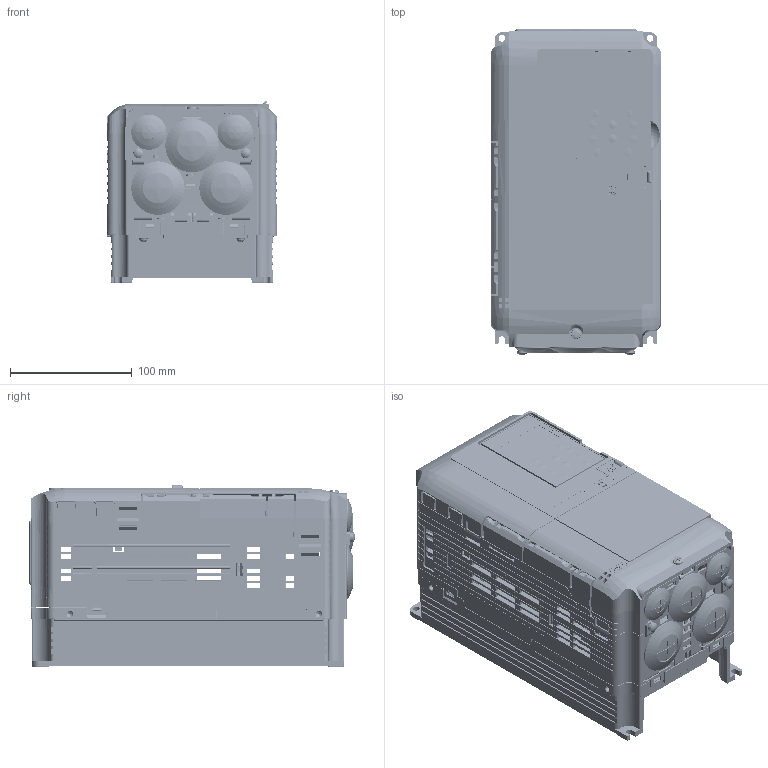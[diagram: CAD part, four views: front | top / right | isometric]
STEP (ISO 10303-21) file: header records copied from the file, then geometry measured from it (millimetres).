
FILE_DESCRIPTION((''),'2;1');
FILE_NAME('71616-AA4A0005FAA_ASM','2010-02-19T',('jc'),('YASKAWA ELECTRIC CORCORATION'),'PRO/ENGINEER BY PARAMETRIC TECHNOLOGY CORPORATION, 2008490','PRO/ENGINEER BY PARAMETRIC TECHNOLOGY CORPORATION, 2008490','');
FILE_SCHEMA(('CONFIG_CONTROL_DESIGN'));
Length unit declared in the file: millimetre
Products named in the file (68): LAY_AA4A0005FAA; HSGT21102; ISCT21009; YPHT31610-1B_AF0; TBET31051_1_1_AF0; TBET31051_1_2_AF0; TBET31051_1_2_AF1; TBET31051_1_2_AF2; TBET31051_1_2_AF3; TBET31051_1_2_AF4; TBET31051_1_2_AF5; TBET31051_1_2_AF6; TBET31051_1_2_AF7; TBET31051_1_2_AF10; TBET31051_1_2_AF9; TBET31051_1_2_AF8; TBET31051-A_1_AF0_ASM; TBET31051_2; ETP712110_I1_ASM; BRQT45503; CVST21160_1_AF0; CVST21160_3; CVST21160_2; CVST21160_ASM; CVST31363; YPHT31639-1B; XC6202P502P_AF0; SPTA1_12-5P0_AF0; SPTA1_11-5P0_AF0; RF-H062TD-1113_AF0; RF-H062TD-1113_AF1; 20-8335-052-101-856_AF0; CHS-01B1_AF0; CHS-01B1_AF1; CHS-01B1_AF2; SPTA1_11-5P0_AF1; SPTA1_3-5P0_AF0; SPTA1_3-5P0_AF1; SPTA1_3-5P0_AF2; TBET31116_1_1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
Assembly tree (93 placements, depth 5):
  71616-AA4A0005FAA_ASM
    LAY_AA4A0005FAA
    HSGT21102
    ISCT21009
    ETP712110_I1_ASM
      YPHT31610-1B_AF0
      TBET31051-A_1_AF0_ASM
        TBET31051_1_1_AF0
        TBET31051_1_2_AF0
        TBET31051_1_2_AF1
        TBET31051_1_2_AF2
        TBET31051_1_2_AF3
        TBET31051_1_2_AF4
        TBET31051_1_2_AF5
        TBET31051_1_2_AF6
        TBET31051_1_2_AF7
        TBET31051_1_2_AF10
        TBET31051_1_2_AF9
        TBET31051_1_2_AF8
      TBET31051_2  x9
    BRQT45503
    TBET31051_2  x2
    CVST21160_ASM
      CVST21160_1_AF0
      CVST21160_3  x10
      CVST21160_2
    CVST31363
    ETC740140_ASM
      YPHT31639-1B
      XC6202P502P_AF0
      SPTA1_12-5P0_AF0
      SPTA1_11-5P0_AF0
      RF-H062TD-1113_AF0
      RF-H062TD-1113_AF1
      20-8335-052-101-856_AF0
      CHS-01B1_AF0
      CHS-01B1_AF1
      CHS-01B1_AF2
      SPTA1_11-5P0_AF1
      SPTA1_3-5P0_AF0
      SPTA1_3-5P0_AF1
      SPTA1_3-5P0_AF2
      TBET31116_I1_AF0_ASM
        TBET31116_1_I1_AF0_ASM
          TBET31116_1_1
          TBET31116_1_2
          TBET31116_1_3_I1
        TBET31116_2
    FPST31750
    SCAT41172  x2
    CVST31367
    SPAT35313
    WSZT41061-1  x2
    WSZT41077-1  x3
    SPAT35362-A_ASM
      SPAT35362-A_1
      SPAT35362-A_2
    MS15_M4X8  x2
    SPAT35362-B_ASM
      SPAT35362-B_1
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Bounding box: 140 x 268.4 x 149.79 mm (x, y, z)
Volume: 2159954.3 mm3; surface area: 671948.2 mm2
Topology: 205 solids, 219 shells, 16595 faces, 44341 edges, 28574 vertices
Faces by surface type: plane 12943, cylinder 2009, cone 664, bspline 396, torus 330, sphere 253
Entity records: 501043 total; most frequent: CARTESIAN_POINT 111632, ORIENTED_EDGE 83006, DIRECTION 75811, EDGE_CURVE 41503, VECTOR 34887, LINE 34887, VERTEX_POINT 26831, AXIS2_PLACEMENT_3D 20462
